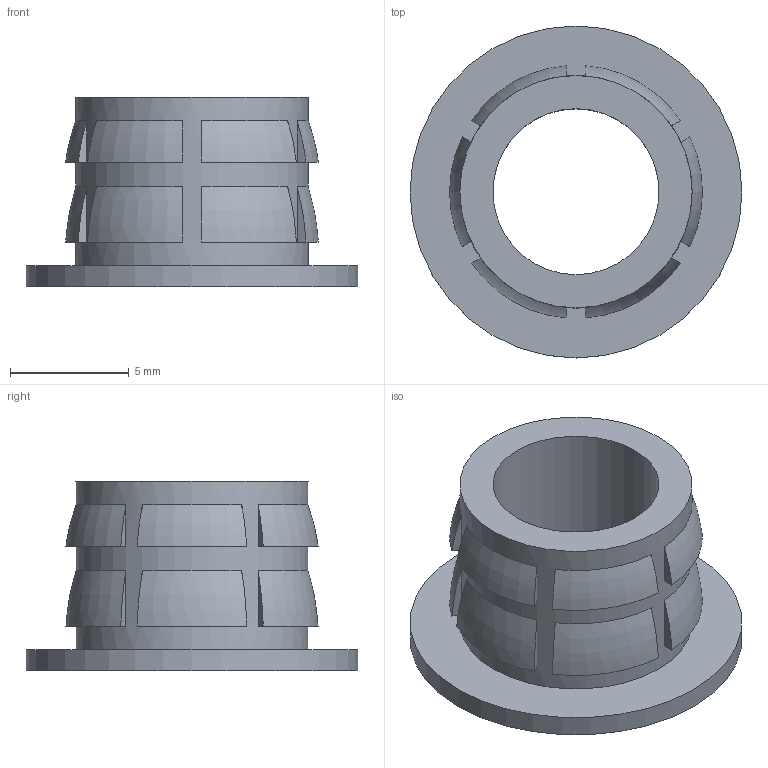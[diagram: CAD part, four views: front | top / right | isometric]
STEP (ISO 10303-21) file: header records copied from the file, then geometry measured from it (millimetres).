
FILE_DESCRIPTION (( 'STEP AP214' ), '1' );
FILE_NAME ('flanged insert M8 S1.STEP', '2017-08-09T11:18:31', ( '微软用户' ), ( '微软中国' ), 'SwSTEP 2.0', 'SolidWorks 2015', '' );
FILE_SCHEMA (( 'AUTOMOTIVE_DESIGN' ));
Length unit declared in the file: millimetre
Products named in the file (1): flanged insert M8 S1
Bounding box: 14 x 14 x 8 mm (x, y, z)
Volume: 381.9 mm3; surface area: 699.2 mm2
Topology: 1 solids, 1 shells, 55 faces, 125 edges, 83 vertices
Faces by surface type: plane 39, torus 12, cylinder 3, cone 1
Full cylindrical faces by diameter (mm): 7 x1, 9.798 x1, 14 x1
Entity records: 1581 total; most frequent: CARTESIAN_POINT 342, DIRECTION 246, ORIENTED_EDGE 230, EDGE_CURVE 115, AXIS2_PLACEMENT_3D 99, VERTEX_POINT 79, EDGE_LOOP 74, FACE_OUTER_BOUND 58
